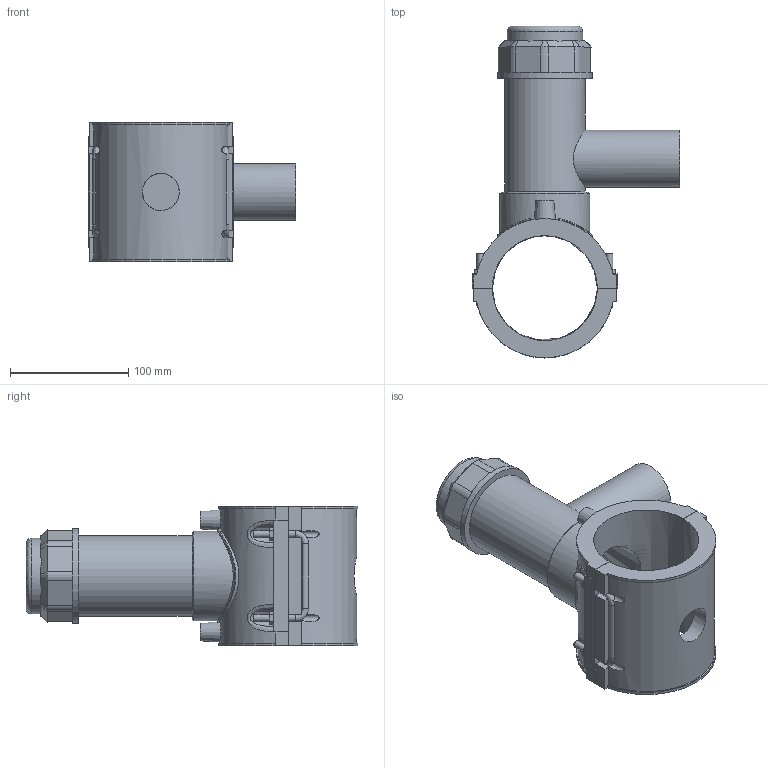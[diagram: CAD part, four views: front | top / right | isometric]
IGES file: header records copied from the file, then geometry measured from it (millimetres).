
Global section: file name: 5963BB03030015.ipt; native system: Autodesk Inventor 2019; preprocessor: unknown; author: KIM; date: 20210830.101351; units: millimetre
Bounding box: 175.5 x 280.2 x 118.11 mm (x, y, z)
Volume: 882953.9 mm3; surface area: 186171.8 mm2
Topology: 1 solids, 1 shells, 210 faces, 552 edges, 361 vertices
Faces by surface type: plane 128, cylinder 37, revolution 24, cone 15, bspline 6
Full cylindrical faces by diameter (mm): 4 x2, 6 x8, 48.1 x1, 63.864 x1, 67.856 x1, 75.838 x1, 79.83 x1
